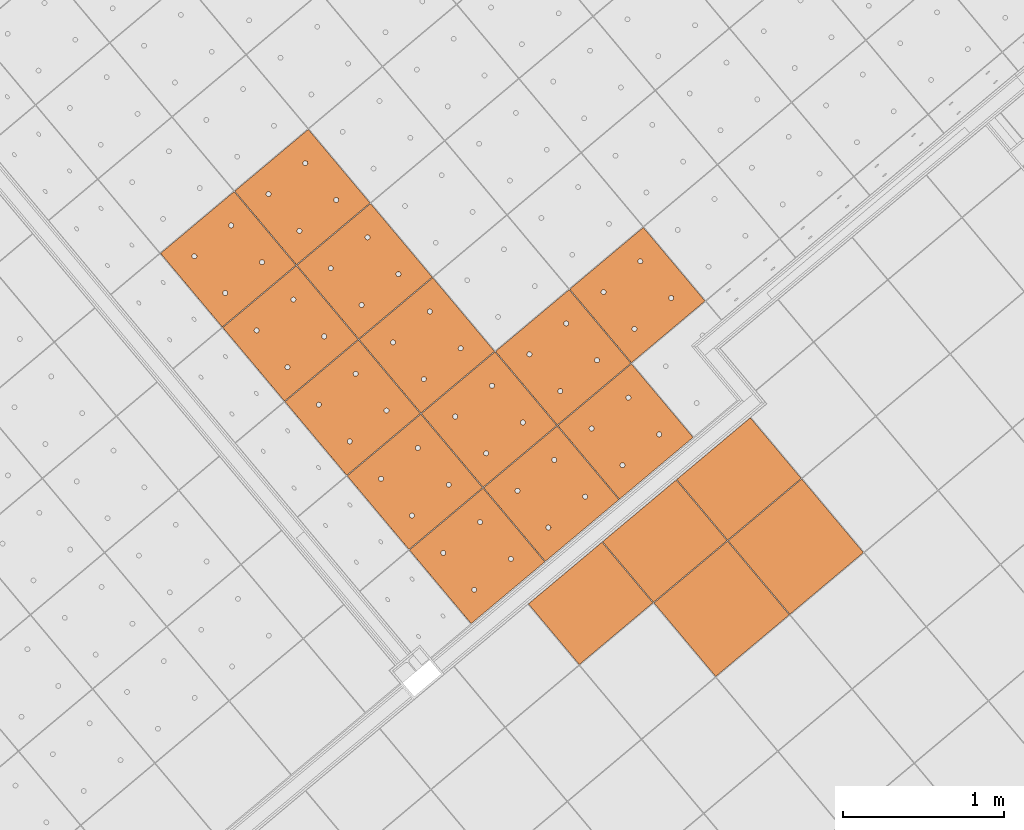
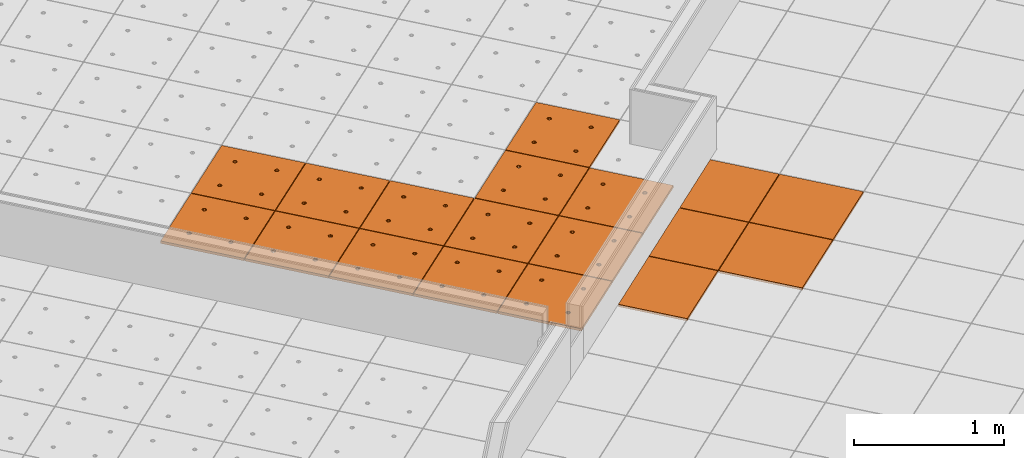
# One storey, part 166 of 338: 18 proxies, 2 elements without a shape of their own.
"""IFC2X3 building model written with IfcOpenShell, lengths in millimetres."""

from ifc_helpers import new_model, entity, si_unit, converted_unit, derived_unit, money_unit, direction, frame, origin_with_axes, place, context, subcontext, project, spatial, faceted_brep, source, transform, mapped, material, type_object, type_shapes, element, aggregate, save


model = new_model("IFC2X3")

# Units and contexts
model_context = context("Model", 3, precision=0.01, world=origin_with_axes(), true_north=direction((0.0, 1.0)))
plan_context = context("Plan", 3, precision=0.01, world=origin_with_axes(), true_north=direction((0.0, 1.0)))
body_context = subcontext(model_context, "Body", "Model", "MODEL_VIEW")
ifc_project = project(units=[si_unit("LENGTHUNIT", "METRE", prefix="MILLI"), si_unit("AREAUNIT", "SQUARE_METRE"), si_unit("VOLUMEUNIT", "CUBIC_METRE"), converted_unit("PLANEANGLEUNIT", "DEGREE", entity("IfcPlaneAngleMeasure", 0.0174532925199), si_unit("PLANEANGLEUNIT", "RADIAN"), dimensions=[0, 0, 0, 0, 0, 0, 0]), money_unit("EUR"), converted_unit("TIMEUNIT", "Year", entity("IfcTimeMeasure", 31556926.0), si_unit("TIMEUNIT", "SECOND"), dimensions=[0, 0, 1, 0, 0, 0, 0]), si_unit("MASSUNIT", "GRAM", prefix="KILO"), si_unit("THERMODYNAMICTEMPERATUREUNIT", "DEGREE_CELSIUS"), si_unit("LUMINOUSINTENSITYUNIT", "LUMEN"), si_unit("ENERGYUNIT", "JOULE", prefix="MEGA"), derived_unit("THERMALCONDUCTANCEUNIT", [(si_unit("POWERUNIT", "WATT"), 1), (si_unit("LENGTHUNIT", "METRE"), -1), (si_unit("THERMODYNAMICTEMPERATUREUNIT", "KELVIN"), -1)]), derived_unit("SPECIFICHEATCAPACITYUNIT", [(si_unit("ENERGYUNIT", "JOULE"), 1), (si_unit("MASSUNIT", "GRAM", prefix="KILO"), -1), (si_unit("THERMODYNAMICTEMPERATUREUNIT", "KELVIN"), -1)]), derived_unit("MASSDENSITYUNIT", [(si_unit("MASSUNIT", "GRAM", prefix="KILO"), 1), (si_unit("VOLUMEUNIT", "CUBIC_METRE"), -1)])], contexts=[model_context, plan_context])

# Site, building, storey
site_placement = place(None, origin_with_axes())
site = spatial("IfcSite", under=ifc_project, at=site_placement, Name="Fortuinstraat Woensdrecht", CompositionType="ELEMENT")
building_placement = place(site_placement, origin_with_axes())
building = spatial("IfcBuilding", under=site, at=building_placement, Name="IKC Fortuna", CompositionType="ELEMENT")
storey_placement = place(building_placement, origin_with_axes())
storey = spatial("IfcBuildingStorey", under=building, at=storey_placement, Name="00 begane grond", CompositionType="ELEMENT", Elevation=0.0)

# Covering, proxies
covering_type = type_object("IfcCoveringType", Name="Curtain Wall Type", PredefinedType="CEILING")
covering_1_placement = place(storey_placement, frame((17937.1227498, -4186.27868692, 4660.0), z_axis=(0.0, 0.0, 1.0), x_axis=(1.0, 0.0, 0.0)))
covering_1 = element("IfcCovering", 1, at=covering_1_placement, inside=storey, type_object=covering_type, Name="45_Plafondafwerking_P02", PredefinedType="CEILING")
ifc_material = material(Name="Gipsplaat")
building_element_proxy_type_1 = type_object("IfcBuildingElementProxyType", Name="Distinct Panel 600 x 600 x 20", PredefinedType="NOTDEFINED")
shared_shape_1 = source(origin_with_axes(), body_context, "Body", "Brep", [
    faceted_brep([(2.49999999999, 2.5, -10.0), (597.5, 2.49999999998, -10.0), (597.5, 2.49999999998, 10.0), (2.49999999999, 2.5, 10.0), (2.50000000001, 597.5, -10.0), (597.5, 597.5, -10.0), (597.5, 597.5, 10.0), (2.50000000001, 597.5, 10.0)], [[[0, 1, 2, 3]], [[0, 4, 5, 1]], [[1, 5, 6, 2]], [[3, 2, 6, 7]], [[4, 0, 3, 7]], [[5, 4, 7, 6]]]),
])
type_shapes(building_element_proxy_type_1, [shared_shape_1])
proxy_1_placement = place(covering_1_placement, frame((-5071.57503286, 4177.19662207, 1.00364161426e-10), z_axis=(0.0, 0.0, 1.0), x_axis=(1.0, 0.0, 0.0)))
proxy_1 = element("IfcBuildingElementProxy", 2, at=proxy_1_placement, type_object=building_element_proxy_type_1, material=ifc_material, Name="__Panel-D", context=body_context, shape_type="MappedRepresentation", body=[
    mapped(shared_shape_1, transform((36.9769427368, 422.649625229, 0.0), x_axis=(-0.766044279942, -0.642787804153, 0.0), y_axis=(0.642787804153, -0.766044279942, 0.0), z_axis=(0.0, 0.0, 1.0))),
])
proxy_2_placement = place(covering_1_placement, frame((-5531.20160082, 3791.52393958, 1.1990408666e-10), z_axis=(0.0, 0.0, 1.0), x_axis=(1.0, 0.0, 0.0)))
proxy_2 = element("IfcBuildingElementProxy", 3, at=proxy_2_placement, type_object=building_element_proxy_type_1, material=ifc_material, Name="__Panel-D", context=body_context, shape_type="MappedRepresentation", body=[
    mapped(shared_shape_1, transform((36.9769427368, 422.649625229, 0.0), x_axis=(-0.766044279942, -0.642787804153, 0.0), y_axis=(0.642787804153, -0.766044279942, 0.0), z_axis=(0.0, 0.0, 1.0))),
])
building_element_proxy_type_2 = type_object("IfcBuildingElementProxyType", Name="Distinct Panel 600 x 495 x 20", PredefinedType="NOTDEFINED")
shared_shape_2 = source(origin_with_axes(), body_context, "Body", "Brep", [
    faceted_brep([(2.49999363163, 107.227066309, -10.0), (597.499995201, 107.226926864, -10.0), (597.499995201, 107.226926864, 10.0), (2.49999363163, 107.227066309, 10.0), (2.50000062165, 597.499998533, -10.0), (597.500007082, 597.499990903, -10.0), (597.500007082, 597.499990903, 10.0), (2.50000062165, 597.499998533, 10.0)], [[[0, 1, 2, 3]], [[0, 4, 5, 1]], [[1, 5, 6, 2]], [[3, 2, 6, 7]], [[4, 0, 3, 7]], [[5, 4, 7, 6]]]),
])
type_shapes(building_element_proxy_type_2, [shared_shape_2])
proxy_3_placement = place(covering_1_placement, frame((-5883.21537993, 4211.03740919, 1.1990408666e-10), z_axis=(0.0, 0.0, 1.0), x_axis=(1.0, 0.0, 0.0)))
proxy_3 = element("IfcBuildingElementProxy", 4, at=proxy_3_placement, type_object=building_element_proxy_type_2, material=ifc_material, Name="__Panel-D", context=body_context, shape_type="MappedRepresentation", body=[
    mapped(shared_shape_2, transform((3.31803934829, 462.762723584, 0.0), x_axis=(-0.766044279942, -0.642787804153, 0.0), y_axis=(0.642787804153, -0.766044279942, 0.0), z_axis=(0.0, 0.0, 1.0))),
])
proxy_4_placement = place(covering_1_placement, frame((-5423.58874616, 4596.71001326, 1.00364161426e-10), z_axis=(0.0, 0.0, 1.0), x_axis=(1.0, 0.0, 0.0)))
proxy_4 = element("IfcBuildingElementProxy", 5, at=proxy_4_placement, type_object=building_element_proxy_type_2, material=ifc_material, Name="__Panel-D", context=body_context, shape_type="MappedRepresentation", body=[
    mapped(shared_shape_2, transform((3.3179735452, 462.762802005, 0.0), x_axis=(-0.766044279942, -0.642787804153, 0.0), y_axis=(0.642787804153, -0.766044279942, 0.0), z_axis=(0.0, 0.0, 1.0))),
])
proxy_5_placement = place(covering_1_placement, frame((-6342.84201369, 3825.36480512, 1.39444011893e-10), z_axis=(0.0, 0.0, 1.0), x_axis=(1.0, 0.0, 0.0)))
proxy_5 = element("IfcBuildingElementProxy", 6, at=proxy_5_placement, type_object=building_element_proxy_type_2, material=ifc_material, Name="__Panel-D", context=body_context, shape_type="MappedRepresentation", body=[
    mapped(shared_shape_2, transform((3.31810515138, 462.762645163, 0.0), x_axis=(-0.766044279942, -0.642787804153, 0.0), y_axis=(0.642787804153, -0.766044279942, 0.0), z_axis=(0.0, 0.0, 1.0))),
])
aggregate(covering_1, [proxy_3, proxy_4, proxy_1, proxy_2, proxy_5])

covering_2_placement = place(storey_placement, frame((15863.124366, 4456.31398675, 4619.99995334), z_axis=(0.0, 0.0, 1.0), x_axis=(1.0, 0.0, 0.0)))
covering_2 = element("IfcCovering", 7, at=covering_2_placement, inside=storey, type_object=covering_type, Name="45_Plafondafwerking_P01", PredefinedType="CEILING")
building_element_proxy_type_3 = type_object("IfcBuildingElementProxyType", Name="Main Panel 600 x 600 x 20", PredefinedType="NOTDEFINED")
shared_shape_3 = source(origin_with_axes(), body_context, "Body", "Brep", [
    faceted_brep([(2.50000262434, 2.50000269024, -10.0), (299.999999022, 2.50000269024, -10.0), (299.999999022, 2.50000269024, 10.0), (2.50000262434, 2.50000269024, 10.0), (2.50000262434, 300.000003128, -10.0), (2.50000262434, 597.500003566, -10.0), (299.999999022, 597.500003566, -10.0), (597.499995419, 597.500003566, -10.0), (597.499995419, 300.000003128, -10.0), (597.499995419, 2.50000269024, -10.0), (166.250000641, 450.062333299, -10.0), (165.794233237, 452.647118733, -10.0), (164.896546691, 455.113492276, -10.0), (163.584216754, 457.386514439, -10.0), (161.897117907, 459.397120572, -10.0), (159.886511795, 461.084219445, -10.0), (157.613489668, 462.396549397, -10.0), (155.147116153, 463.294235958, -10.0), (152.56233076, 463.750003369, -10.0), (149.937670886, 463.750003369, -10.0), (147.352885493, 463.294235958, -10.0), (144.886511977, 462.396549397, -10.0), (142.61348985, 461.084219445, -10.0), (140.602883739, 459.397120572, -10.0), (138.915784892, 457.386514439, -10.0), (137.603454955, 455.113492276, -10.0), (136.705768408, 452.647118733, -10.0), (136.250001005, 450.062333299, -10.0), (136.250001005, 448.750003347, -10.0), (136.250001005, 447.437673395, -10.0), (136.705768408, 444.852887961, -10.0), (137.603454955, 442.386514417, -10.0), (138.915784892, 440.113492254, -10.0), (140.602883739, 438.102886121, -10.0), (142.61348985, 436.415787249, -10.0), (144.886511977, 435.103457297, -10.0), (147.352885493, 434.205770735, -10.0), (149.937670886, 433.750003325, -10.0), (152.56233076, 433.750003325, -10.0), (155.147116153, 434.205770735, -10.0), (157.613489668, 435.103457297, -10.0), (159.886511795, 436.415787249, -10.0), (161.897117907, 438.102886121, -10.0), (163.584216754, 440.113492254, -10.0), (164.896546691, 442.386514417, -10.0), (165.794233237, 444.852887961, -10.0), (166.250000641, 447.437673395, -10.0), (463.749997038, 450.062333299, -10.0), (463.294229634, 452.647118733, -10.0), (462.396543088, 455.113492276, -10.0), (461.084213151, 457.386514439, -10.0), (459.397114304, 459.397120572, -10.0), (457.386508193, 461.084219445, -10.0), (455.113486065, 462.396549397, -10.0), (452.64711255, 463.294235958, -10.0), (450.062327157, 463.750003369, -10.0), (447.437667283, 463.750003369, -10.0), (444.85288189, 463.294235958, -10.0), (442.386508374, 462.396549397, -10.0), (440.113486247, 461.084219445, -10.0), (438.102880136, 459.397120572, -10.0), (436.415781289, 457.386514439, -10.0), (435.103451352, 455.113492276, -10.0), (434.205764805, 452.647118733, -10.0), (433.749997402, 450.062333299, -10.0), (433.749997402, 448.750003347, -10.0), (433.749997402, 447.437673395, -10.0), (434.205764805, 444.852887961, -10.0), (435.103451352, 442.386514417, -10.0), (436.415781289, 440.113492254, -10.0), (438.102880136, 438.102886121, -10.0), (440.113486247, 436.415787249, -10.0), (442.386508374, 435.103457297, -10.0), (444.85288189, 434.205770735, -10.0), (447.437667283, 433.750003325, -10.0), (450.062327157, 433.750003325, -10.0), (452.64711255, 434.205770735, -10.0), (455.113486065, 435.103457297, -10.0), (457.386508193, 436.415787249, -10.0), (459.397114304, 438.102886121, -10.0), (461.084213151, 440.113492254, -10.0), (462.396543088, 442.386514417, -10.0), (463.294229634, 444.852887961, -10.0), (463.749997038, 447.437673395, -10.0), (463.749997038, 152.562332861, -10.0), (463.294229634, 155.147118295, -10.0), (462.396543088, 157.613491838, -10.0), (461.084213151, 159.886514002, -10.0), (459.397114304, 161.897120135, -10.0), (457.386508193, 163.584219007, -10.0), (455.113486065, 164.896548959, -10.0), (452.64711255, 165.79423552, -10.0), (450.062327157, 166.250002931, -10.0), (447.437667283, 166.250002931, -10.0), (444.85288189, 165.79423552, -10.0), (442.386508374, 164.896548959, -10.0), (440.113486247, 163.584219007, -10.0), (438.102880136, 161.897120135, -10.0), (436.415781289, 159.886514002, -10.0), (435.103451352, 157.613491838, -10.0), (434.205764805, 155.147118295, -10.0), (433.749997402, 152.562332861, -10.0), (433.749997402, 151.250002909, -10.0), (433.749997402, 149.937672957, -10.0), (434.205764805, 147.352887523, -10.0), (435.103451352, 144.88651398, -10.0), (436.415781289, 142.613491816, -10.0), (438.102880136, 140.602885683, -10.0), (440.113486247, 138.915786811, -10.0), (442.386508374, 137.603456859, -10.0), (444.85288189, 136.705770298, -10.0), (447.437667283, 136.250002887, -10.0), (450.062327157, 136.250002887, -10.0), (452.64711255, 136.705770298, -10.0), (455.113486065, 137.603456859, -10.0), (457.386508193, 138.915786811, -10.0), (459.397114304, 140.602885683, -10.0), (461.084213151, 142.613491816, -10.0), (462.396543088, 144.88651398, -10.0), (463.294229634, 147.352887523, -10.0), (463.749997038, 149.937672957, -10.0), (166.250000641, 152.562332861, -10.0), (165.794233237, 155.147118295, -10.0), (164.896546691, 157.613491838, -10.0), (163.584216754, 159.886514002, -10.0), (161.897117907, 161.897120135, -10.0), (159.886511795, 163.584219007, -10.0), (157.613489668, 164.896548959, -10.0), (155.147116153, 165.79423552, -10.0), (152.56233076, 166.250002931, -10.0), (149.937670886, 166.250002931, -10.0), (147.352885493, 165.79423552, -10.0), (144.886511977, 164.896548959, -10.0), (142.61348985, 163.584219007, -10.0), (140.602883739, 161.897120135, -10.0), (138.915784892, 159.886514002, -10.0), (137.603454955, 157.613491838, -10.0), (136.705768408, 155.147118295, -10.0), (136.250001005, 152.562332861, -10.0), (136.250001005, 151.250002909, -10.0), (136.250001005, 149.937672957, -10.0), (136.705768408, 147.352887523, -10.0), (137.603454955, 144.88651398, -10.0), (138.915784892, 142.613491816, -10.0), (140.602883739, 140.602885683, -10.0), (142.61348985, 138.915786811, -10.0), (144.886511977, 137.603456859, -10.0), (147.352885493, 136.705770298, -10.0), (149.937670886, 136.250002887, -10.0), (152.56233076, 136.250002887, -10.0), (155.147116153, 136.705770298, -10.0), (157.613489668, 137.603456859, -10.0), (159.886511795, 138.915786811, -10.0), (161.897117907, 140.602885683, -10.0), (163.584216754, 142.613491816, -10.0), (164.896546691, 144.88651398, -10.0), (165.794233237, 147.352887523, -10.0), (166.250000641, 149.937672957, -10.0), (597.499995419, 2.50000269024, 10.0), (597.499995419, 300.000003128, 10.0), (597.499995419, 597.500003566, 10.0), (299.999999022, 597.500003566, 10.0), (2.50000262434, 597.500003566, 10.0), (2.50000262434, 300.000003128, 10.0), (166.250000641, 450.062333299, 10.0), (166.250000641, 447.437673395, 10.0), (165.794233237, 444.852887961, 10.0), (164.896546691, 442.386514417, 10.0), (163.584216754, 440.113492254, 10.0), (161.897117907, 438.102886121, 10.0), (159.886511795, 436.415787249, 10.0), (157.613489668, 435.103457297, 10.0), (155.147116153, 434.205770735, 10.0), (152.56233076, 433.750003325, 10.0), (149.937670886, 433.750003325, 10.0), (147.352885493, 434.205770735, 10.0), (144.886511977, 435.103457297, 10.0), (142.61348985, 436.415787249, 10.0), (140.602883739, 438.102886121, 10.0), (138.915784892, 440.113492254, 10.0), (137.603454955, 442.386514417, 10.0), (136.705768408, 444.852887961, 10.0), (136.250001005, 447.437673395, 10.0), (136.250001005, 448.750003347, 10.0), (136.250001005, 450.062333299, 10.0), (136.705768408, 452.647118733, 10.0), (137.603454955, 455.113492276, 10.0), (138.915784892, 457.386514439, 10.0), (140.602883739, 459.397120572, 10.0), (142.61348985, 461.084219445, 10.0), (144.886511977, 462.396549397, 10.0), (147.352885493, 463.294235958, 10.0), (149.937670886, 463.750003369, 10.0), (152.56233076, 463.750003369, 10.0), (155.147116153, 463.294235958, 10.0), (157.613489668, 462.396549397, 10.0), (159.886511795, 461.084219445, 10.0), (161.897117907, 459.397120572, 10.0), (163.584216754, 457.386514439, 10.0), (164.896546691, 455.113492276, 10.0), (165.794233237, 452.647118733, 10.0), (463.749997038, 450.062333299, 10.0), (463.749997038, 447.437673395, 10.0), (463.294229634, 444.852887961, 10.0), (462.396543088, 442.386514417, 10.0), (461.084213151, 440.113492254, 10.0), (459.397114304, 438.102886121, 10.0), (457.386508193, 436.415787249, 10.0), (455.113486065, 435.103457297, 10.0), (452.64711255, 434.205770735, 10.0), (450.062327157, 433.750003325, 10.0), (447.437667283, 433.750003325, 10.0), (444.85288189, 434.205770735, 10.0), (442.386508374, 435.103457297, 10.0), (440.113486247, 436.415787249, 10.0), (438.102880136, 438.102886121, 10.0), (436.415781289, 440.113492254, 10.0), (435.103451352, 442.386514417, 10.0), (434.205764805, 444.852887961, 10.0), (433.749997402, 447.437673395, 10.0), (433.749997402, 448.750003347, 10.0), (433.749997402, 450.062333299, 10.0), (434.205764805, 452.647118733, 10.0), (435.103451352, 455.113492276, 10.0), (436.415781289, 457.386514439, 10.0), (438.102880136, 459.397120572, 10.0), (440.113486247, 461.084219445, 10.0), (442.386508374, 462.396549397, 10.0), (444.85288189, 463.294235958, 10.0), (447.437667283, 463.750003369, 10.0), (450.062327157, 463.750003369, 10.0), (452.64711255, 463.294235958, 10.0), (455.113486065, 462.396549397, 10.0), (457.386508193, 461.084219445, 10.0), (459.397114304, 459.397120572, 10.0), (461.084213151, 457.386514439, 10.0), (462.396543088, 455.113492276, 10.0), (463.294229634, 452.647118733, 10.0), (463.749997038, 152.562332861, 10.0), (463.749997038, 149.937672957, 10.0), (463.294229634, 147.352887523, 10.0), (462.396543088, 144.88651398, 10.0), (461.084213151, 142.613491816, 10.0), (459.397114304, 140.602885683, 10.0), (457.386508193, 138.915786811, 10.0), (455.113486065, 137.603456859, 10.0), (452.64711255, 136.705770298, 10.0), (450.062327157, 136.250002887, 10.0), (447.437667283, 136.250002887, 10.0), (444.85288189, 136.705770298, 10.0), (442.386508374, 137.603456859, 10.0), (440.113486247, 138.915786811, 10.0), (438.102880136, 140.602885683, 10.0), (436.415781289, 142.613491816, 10.0), (435.103451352, 144.88651398, 10.0), (434.205764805, 147.352887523, 10.0), (433.749997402, 149.937672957, 10.0), (433.749997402, 151.250002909, 10.0), (433.749997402, 152.562332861, 10.0), (434.205764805, 155.147118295, 10.0), (435.103451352, 157.613491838, 10.0), (436.415781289, 159.886514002, 10.0), (438.102880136, 161.897120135, 10.0), (440.113486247, 163.584219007, 10.0), (442.386508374, 164.896548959, 10.0), (444.85288189, 165.79423552, 10.0), (447.437667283, 166.250002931, 10.0), (450.062327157, 166.250002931, 10.0), (452.64711255, 165.79423552, 10.0), (455.113486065, 164.896548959, 10.0), (457.386508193, 163.584219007, 10.0), (459.397114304, 161.897120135, 10.0), (461.084213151, 159.886514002, 10.0), (462.396543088, 157.613491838, 10.0), (463.294229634, 155.147118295, 10.0), (166.250000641, 152.562332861, 10.0), (166.250000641, 149.937672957, 10.0), (165.794233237, 147.352887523, 10.0), (164.896546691, 144.88651398, 10.0), (163.584216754, 142.613491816, 10.0), (161.897117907, 140.602885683, 10.0), (159.886511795, 138.915786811, 10.0), (157.613489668, 137.603456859, 10.0), (155.147116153, 136.705770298, 10.0), (152.56233076, 136.250002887, 10.0), (149.937670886, 136.250002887, 10.0), (147.352885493, 136.705770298, 10.0), (144.886511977, 137.603456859, 10.0), (142.61348985, 138.915786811, 10.0), (140.602883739, 140.602885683, 10.0), (138.915784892, 142.613491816, 10.0), (137.603454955, 144.88651398, 10.0), (136.705768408, 147.352887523, 10.0), (136.250001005, 149.937672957, 10.0), (136.250001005, 151.250002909, 10.0), (136.250001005, 152.562332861, 10.0), (136.705768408, 155.147118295, 10.0), (137.603454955, 157.613491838, 10.0), (138.915784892, 159.886514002, 10.0), (140.602883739, 161.897120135, 10.0), (142.61348985, 163.584219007, 10.0), (144.886511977, 164.896548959, 10.0), (147.352885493, 165.79423552, 10.0), (149.937670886, 166.250002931, 10.0), (152.56233076, 166.250002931, 10.0), (155.147116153, 165.79423552, 10.0), (157.613489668, 164.896548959, 10.0), (159.886511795, 163.584219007, 10.0), (161.897117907, 161.897120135, 10.0), (163.584216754, 159.886514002, 10.0), (164.896546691, 157.613491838, 10.0), (165.794233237, 155.147118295, 10.0)], [[[0, 1, 2, 3]], [[0, 4, 5, 6, 7, 8, 9, 1], [10, 11, 12, 13, 14, 15, 16, 17, 18, 19, 20, 21, 22, 23, 24, 25, 26, 27, 28, 29, 30, 31, 32, 33, 34, 35, 36, 37, 38, 39, 40, 41, 42, 43, 44, 45, 46], [47, 48, 49, 50, 51, 52, 53, 54, 55, 56, 57, 58, 59, 60, 61, 62, 63, 64, 65, 66, 67, 68, 69, 70, 71, 72, 73, 74, 75, 76, 77, 78, 79, 80, 81, 82, 83], [84, 85, 86, 87, 88, 89, 90, 91, 92, 93, 94, 95, 96, 97, 98, 99, 100, 101, 102, 103, 104, 105, 106, 107, 108, 109, 110, 111, 112, 113, 114, 115, 116, 117, 118, 119, 120], [121, 122, 123, 124, 125, 126, 127, 128, 129, 130, 131, 132, 133, 134, 135, 136, 137, 138, 139, 140, 141, 142, 143, 144, 145, 146, 147, 148, 149, 150, 151, 152, 153, 154, 155, 156, 157]], [[1, 9, 158, 2]], [[3, 2, 158, 159, 160, 161, 162, 163], [164, 165, 166, 167, 168, 169, 170, 171, 172, 173, 174, 175, 176, 177, 178, 179, 180, 181, 182, 183, 184, 185, 186, 187, 188, 189, 190, 191, 192, 193, 194, 195, 196, 197, 198, 199, 200], [201, 202, 203, 204, 205, 206, 207, 208, 209, 210, 211, 212, 213, 214, 215, 216, 217, 218, 219, 220, 221, 222, 223, 224, 225, 226, 227, 228, 229, 230, 231, 232, 233, 234, 235, 236, 237], [238, 239, 240, 241, 242, 243, 244, 245, 246, 247, 248, 249, 250, 251, 252, 253, 254, 255, 256, 257, 258, 259, 260, 261, 262, 263, 264, 265, 266, 267, 268, 269, 270, 271, 272, 273, 274], [275, 276, 277, 278, 279, 280, 281, 282, 283, 284, 285, 286, 287, 288, 289, 290, 291, 292, 293, 294, 295, 296, 297, 298, 299, 300, 301, 302, 303, 304, 305, 306, 307, 308, 309, 310, 311]], [[4, 0, 3, 163]], [[5, 4, 163, 162]], [[6, 5, 162, 161]], [[7, 6, 161, 160]], [[8, 7, 160, 159]], [[9, 8, 159, 158]], [[11, 10, 164, 200]], [[12, 11, 200, 199]], [[13, 12, 199, 198]], [[14, 13, 198, 197]], [[15, 14, 197, 196]], [[16, 15, 196, 195]], [[17, 16, 195, 194]], [[18, 17, 194, 193]], [[19, 18, 193, 192]], [[20, 19, 192, 191]], [[21, 20, 191, 190]], [[22, 21, 190, 189]], [[23, 22, 189, 188]], [[24, 23, 188, 187]], [[25, 24, 187, 186]], [[26, 25, 186, 185]], [[27, 26, 185, 184]], [[28, 27, 184, 183]], [[29, 28, 183, 182]], [[30, 29, 182, 181]], [[31, 30, 181, 180]], [[32, 31, 180, 179]], [[33, 32, 179, 178]], [[34, 33, 178, 177]], [[35, 34, 177, 176]], [[36, 35, 176, 175]], [[37, 36, 175, 174]], [[38, 37, 174, 173]], [[39, 38, 173, 172]], [[40, 39, 172, 171]], [[41, 40, 171, 170]], [[42, 41, 170, 169]], [[43, 42, 169, 168]], [[44, 43, 168, 167]], [[45, 44, 167, 166]], [[46, 45, 166, 165]], [[10, 46, 165, 164]], [[48, 47, 201, 237]], [[49, 48, 237, 236]], [[50, 49, 236, 235]], [[51, 50, 235, 234]], [[52, 51, 234, 233]], [[53, 52, 233, 232]], [[54, 53, 232, 231]], [[55, 54, 231, 230]], [[56, 55, 230, 229]], [[57, 56, 229, 228]], [[58, 57, 228, 227]], [[59, 58, 227, 226]], [[60, 59, 226, 225]], [[61, 60, 225, 224]], [[62, 61, 224, 223]], [[63, 62, 223, 222]], [[64, 63, 222, 221]], [[65, 64, 221, 220]], [[66, 65, 220, 219]], [[67, 66, 219, 218]], [[68, 67, 218, 217]], [[69, 68, 217, 216]], [[70, 69, 216, 215]], [[71, 70, 215, 214]], [[72, 71, 214, 213]], [[73, 72, 213, 212]], [[74, 73, 212, 211]], [[75, 74, 211, 210]], [[76, 75, 210, 209]], [[77, 76, 209, 208]], [[78, 77, 208, 207]], [[79, 78, 207, 206]], [[80, 79, 206, 205]], [[81, 80, 205, 204]], [[82, 81, 204, 203]], [[83, 82, 203, 202]], [[47, 83, 202, 201]], [[85, 84, 238, 274]], [[86, 85, 274, 273]], [[87, 86, 273, 272]], [[88, 87, 272, 271]], [[89, 88, 271, 270]], [[90, 89, 270, 269]], [[91, 90, 269, 268]], [[92, 91, 268, 267]], [[93, 92, 267, 266]], [[94, 93, 266, 265]], [[95, 94, 265, 264]], [[96, 95, 264, 263]], [[97, 96, 263, 262]], [[98, 97, 262, 261]], [[99, 98, 261, 260]], [[100, 99, 260, 259]], [[101, 100, 259, 258]], [[102, 101, 258, 257]], [[103, 102, 257, 256]], [[104, 103, 256, 255]], [[105, 104, 255, 254]], [[106, 105, 254, 253]], [[107, 106, 253, 252]], [[108, 107, 252, 251]], [[109, 108, 251, 250]], [[110, 109, 250, 249]], [[111, 110, 249, 248]], [[112, 111, 248, 247]], [[113, 112, 247, 246]], [[114, 113, 246, 245]], [[115, 114, 245, 244]], [[116, 115, 244, 243]], [[117, 116, 243, 242]], [[118, 117, 242, 241]], [[119, 118, 241, 240]], [[120, 119, 240, 239]], [[84, 120, 239, 238]], [[122, 121, 275, 311]], [[123, 122, 311, 310]], [[124, 123, 310, 309]], [[125, 124, 309, 308]], [[126, 125, 308, 307]], [[127, 126, 307, 306]], [[128, 127, 306, 305]], [[129, 128, 305, 304]], [[130, 129, 304, 303]], [[131, 130, 303, 302]], [[132, 131, 302, 301]], [[133, 132, 301, 300]], [[134, 133, 300, 299]], [[135, 134, 299, 298]], [[136, 135, 298, 297]], [[137, 136, 297, 296]], [[138, 137, 296, 295]], [[139, 138, 295, 294]], [[140, 139, 294, 293]], [[141, 140, 293, 292]], [[142, 141, 292, 291]], [[143, 142, 291, 290]], [[144, 143, 290, 289]], [[145, 144, 289, 288]], [[146, 145, 288, 287]], [[147, 146, 287, 286]], [[148, 147, 286, 285]], [[149, 148, 285, 284]], [[150, 149, 284, 283]], [[151, 150, 283, 282]], [[152, 151, 282, 281]], [[153, 152, 281, 280]], [[154, 153, 280, 279]], [[155, 154, 279, 278]], [[156, 155, 278, 277]], [[157, 156, 277, 276]], [[121, 157, 276, 275]]]),
])
type_shapes(building_element_proxy_type_3, [shared_shape_3])
proxy_6_placement = place(covering_2_placement, frame((-6055.56360729, -2299.01480223, 32.9747801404), z_axis=(0.0, 0.0, 1.0), x_axis=(0.642787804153, -0.766044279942, 0.0)))
proxy_6 = element("IfcBuildingElementProxy", 8, at=proxy_6_placement, type_object=building_element_proxy_type_3, material=ifc_material, Name="__600x032 Rockfon Krios", context=body_context, shape_type="MappedRepresentation", body=[
    mapped(shared_shape_3, transform((-300.0, 299.995617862, -1.62150043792), x_axis=(0.0, -0.999985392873, 0.00540500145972), y_axis=(1.0, 0.0, 0.0), z_axis=(0.0, 0.00540500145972, 0.999985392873))),
])
proxy_7_placement = place(covering_2_placement, frame((-6515.18346143, -2684.68185115, 36.2177810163), z_axis=(0.0, 0.0, 1.0), x_axis=(0.642787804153, -0.766044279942, 0.0)))
proxy_7 = element("IfcBuildingElementProxy", 9, at=proxy_7_placement, type_object=building_element_proxy_type_3, material=ifc_material, Name="__600x033 Rockfon Krios", context=body_context, shape_type="MappedRepresentation", body=[
    mapped(shared_shape_3, transform((-300.0, 299.995617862, -1.62150043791), x_axis=(0.0, -0.999985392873, 0.00540500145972), y_axis=(1.0, 0.0, 0.0), z_axis=(0.0, 0.00540500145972, 0.999985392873))),
])
proxy_8_placement = place(covering_2_placement, frame((-5669.8909248, -2758.64137019, 32.9747801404), z_axis=(0.0, 0.0, 1.0), x_axis=(0.642787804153, -0.766044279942, 0.0)))
proxy_8 = element("IfcBuildingElementProxy", 10, at=proxy_8_placement, type_object=building_element_proxy_type_3, material=ifc_material, Name="__600x045 Rockfon Krios", context=body_context, shape_type="MappedRepresentation", body=[
    mapped(shared_shape_3, transform((-300.0, 299.995617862, -1.62150043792), x_axis=(0.0, -0.999985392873, 0.00540500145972), y_axis=(1.0, 0.0, 0.0), z_axis=(0.0, 0.00540500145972, 0.999985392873))),
])
proxy_9_placement = place(covering_2_placement, frame((-6129.51077894, -3144.30841911, 36.2177810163), z_axis=(0.0, 0.0, 1.0), x_axis=(0.642787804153, -0.766044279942, 0.0)))
proxy_9 = element("IfcBuildingElementProxy", 11, at=proxy_9_placement, type_object=building_element_proxy_type_3, material=ifc_material, Name="__600x046 Rockfon Krios", context=body_context, shape_type="MappedRepresentation", body=[
    mapped(shared_shape_3, transform((-300.0, 299.995617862, -1.62150043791), x_axis=(0.0, -0.999985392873, 0.00540500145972), y_axis=(1.0, 0.0, 0.0), z_axis=(0.0, 0.00540500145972, 0.999985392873))),
])
proxy_10_placement = place(covering_2_placement, frame((-5284.21824231, -3218.26793816, 32.9747801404), z_axis=(0.0, 0.0, 1.0), x_axis=(0.642787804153, -0.766044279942, 0.0)))
proxy_10 = element("IfcBuildingElementProxy", 12, at=proxy_10_placement, type_object=building_element_proxy_type_3, material=ifc_material, Name="__600x058 Rockfon Krios", context=body_context, shape_type="MappedRepresentation", body=[
    mapped(shared_shape_3, transform((-300.0, 299.995617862, -1.62150043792), x_axis=(0.0, -0.999985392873, 0.00540500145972), y_axis=(1.0, 0.0, 0.0), z_axis=(0.0, 0.00540500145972, 0.999985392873))),
])
proxy_11_placement = place(covering_2_placement, frame((-5743.83809645, -3603.93498708, 36.2177810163), z_axis=(0.0, 0.0, 1.0), x_axis=(0.642787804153, -0.766044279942, 0.0)))
proxy_11 = element("IfcBuildingElementProxy", 13, at=proxy_11_placement, type_object=building_element_proxy_type_3, material=ifc_material, Name="__600x059 Rockfon Krios", context=body_context, shape_type="MappedRepresentation", body=[
    mapped(shared_shape_3, transform((-300.0, 299.995617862, -1.62150043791), x_axis=(0.0, -0.999985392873, 0.00540500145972), y_axis=(1.0, 0.0, 0.0), z_axis=(0.0, 0.00540500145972, 0.999985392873))),
])
proxy_12_placement = place(covering_2_placement, frame((-3979.30585153, -2906.56040828, 26.4887783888), z_axis=(0.0, 0.0, 1.0), x_axis=(0.642787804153, -0.766044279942, 0.0)))
proxy_12 = element("IfcBuildingElementProxy", 14, at=proxy_12_placement, type_object=building_element_proxy_type_3, material=ifc_material, Name="__600x069 Rockfon Krios", context=body_context, shape_type="MappedRepresentation", body=[
    mapped(shared_shape_3, transform((-300.0, 299.995617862, -1.62150043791), x_axis=(0.0, -0.999985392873, 0.00540500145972), y_axis=(1.0, 0.0, 0.0), z_axis=(0.0, 0.00540500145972, 0.999985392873))),
])
proxy_13_placement = place(covering_2_placement, frame((-4438.92570568, -3292.2274572, 29.7317792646), z_axis=(0.0, 0.0, 1.0), x_axis=(0.642787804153, -0.766044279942, 0.0)))
proxy_13 = element("IfcBuildingElementProxy", 15, at=proxy_13_placement, type_object=building_element_proxy_type_3, material=ifc_material, Name="__600x070 Rockfon Krios", context=body_context, shape_type="MappedRepresentation", body=[
    mapped(shared_shape_3, transform((-300.0, 299.995617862, -1.62150043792), x_axis=(0.0, -0.999985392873, 0.00540500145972), y_axis=(1.0, 0.0, 0.0), z_axis=(0.0, 0.00540500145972, 0.999985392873))),
])
proxy_14_placement = place(covering_2_placement, frame((-4898.54555982, -3677.89450612, 32.9747801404), z_axis=(0.0, 0.0, 1.0), x_axis=(0.642787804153, -0.766044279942, 0.0)))
proxy_14 = element("IfcBuildingElementProxy", 16, at=proxy_14_placement, type_object=building_element_proxy_type_3, material=ifc_material, Name="__600x071 Rockfon Krios", context=body_context, shape_type="MappedRepresentation", body=[
    mapped(shared_shape_3, transform((-300.0, 299.995617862, -1.62150043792), x_axis=(0.0, -0.999985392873, 0.00540500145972), y_axis=(1.0, 0.0, 0.0), z_axis=(0.0, 0.00540500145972, 0.999985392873))),
])
proxy_15_placement = place(covering_2_placement, frame((-5358.16541396, -4063.56155504, 36.2177810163), z_axis=(0.0, 0.0, 1.0), x_axis=(0.642787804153, -0.766044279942, 0.0)))
proxy_15 = element("IfcBuildingElementProxy", 17, at=proxy_15_placement, type_object=building_element_proxy_type_3, material=ifc_material, Name="__600x072 Rockfon Krios", context=body_context, shape_type="MappedRepresentation", body=[
    mapped(shared_shape_3, transform((-300.0, 299.995617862, -1.62150043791), x_axis=(0.0, -0.999985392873, 0.00540500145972), y_axis=(1.0, 0.0, 0.0), z_axis=(0.0, 0.00540500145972, 0.999985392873))),
])
proxy_16_placement = place(covering_2_placement, frame((-4053.25302318, -3751.85402517, 29.7317792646), z_axis=(0.0, 0.0, 1.0), x_axis=(0.642787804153, -0.766044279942, 0.0)))
proxy_16 = element("IfcBuildingElementProxy", 18, at=proxy_16_placement, type_object=building_element_proxy_type_3, material=ifc_material, Name="__600x083 Rockfon Krios", context=body_context, shape_type="MappedRepresentation", body=[
    mapped(shared_shape_3, transform((-300.0, 299.995617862, -1.62150043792), x_axis=(0.0, -0.999985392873, 0.00540500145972), y_axis=(1.0, 0.0, 0.0), z_axis=(0.0, 0.00540500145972, 0.999985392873))),
])
proxy_17_placement = place(covering_2_placement, frame((-4512.87287733, -4137.52107409, 32.9747801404), z_axis=(0.0, 0.0, 1.0), x_axis=(0.642787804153, -0.766044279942, 0.0)))
proxy_17 = element("IfcBuildingElementProxy", 19, at=proxy_17_placement, type_object=building_element_proxy_type_3, material=ifc_material, Name="__600x084 Rockfon Krios", context=body_context, shape_type="MappedRepresentation", body=[
    mapped(shared_shape_3, transform((-300.0, 299.995617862, -1.62150043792), x_axis=(0.0, -0.999985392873, 0.00540500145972), y_axis=(1.0, 0.0, 0.0), z_axis=(0.0, 0.00540500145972, 0.999985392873))),
])
proxy_18_placement = place(covering_2_placement, frame((-4972.49273147, -4523.18812301, 36.2177810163), z_axis=(0.0, 0.0, 1.0), x_axis=(0.642787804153, -0.766044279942, 0.0)))
proxy_18 = element("IfcBuildingElementProxy", 20, at=proxy_18_placement, type_object=building_element_proxy_type_3, material=ifc_material, Name="__600x085 Rockfon Krios", context=body_context, shape_type="MappedRepresentation", body=[
    mapped(shared_shape_3, transform((-300.0, 299.995617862, -1.62150043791), x_axis=(0.0, -0.999985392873, 0.00540500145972), y_axis=(1.0, 0.0, 0.0), z_axis=(0.0, 0.00540500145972, 0.999985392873))),
])
aggregate(covering_2, [proxy_6, proxy_7, proxy_8, proxy_9, proxy_10, proxy_11, proxy_12, proxy_13, proxy_14, proxy_15, proxy_16, proxy_17, proxy_18])

save(model, "model.ifc")
